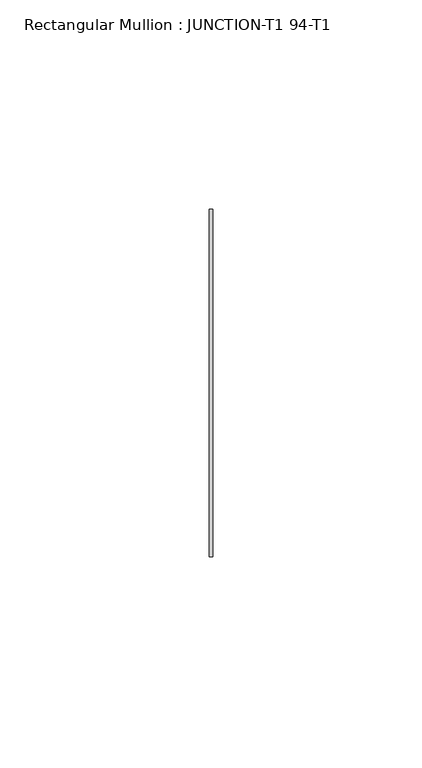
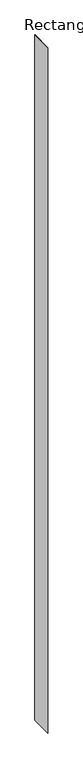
"""IFC4 building model written with IfcOpenShell, lengths in millimetres: member geometry, Rectangular Mullion : JUNCTION-T1 94-T1."""

from ifc_helpers import new_model, si_unit, frame, origin, place, context, project, spatial, polyline, outline, extrude, source, transform, mapped, element, save


def rectangular_mullion_junction_t1_94_t1_785bb957(model_context):
    return source(origin(), model_context, "Body", "SweptSolid", [
        extrude(outline(polyline([(0.4, -41.5), (-0.4, -41.5), (-0.4, 41.5), (0.4, 41.5), (0.4, -41.5)])), frame((0.0, 0.0, -2715.0), z_axis=(0.0, 0.0, 1.0), x_axis=(1.0, 0.0, 0.0)), (0.0, 0.0, 1.0), 2715.0),
    ])


if __name__ == "__main__":
    model = new_model("IFC4")
    model_context = context("Model", 3, world=origin())
    ifc_project = project(units=[si_unit("LENGTHUNIT", "METRE", prefix="MILLI")], contexts=[model_context])
    site = spatial("IfcSite", under=ifc_project)
    building = spatial("IfcBuilding", under=site)
    placement = place(None, origin())
    rectangular_mullion_junction_t1_94_t1_shape = rectangular_mullion_junction_t1_94_t1_785bb957(model_context)
    element("IfcMember", 1, ObjectType="Rectangular Mullion : JUNCTION-T1 94-T1", at=placement, inside=building, context=model_context, shape_type="MappedRepresentation", body=[
        mapped(rectangular_mullion_junction_t1_94_t1_shape, transform((0.0, 0.0, 0.0), x_axis=(1.0, 0.0, 0.0), y_axis=(0.0, 1.0, 0.0), z_axis=(0.0, 0.0, 1.0))),
    ])
    save(model, "model.ifc")
